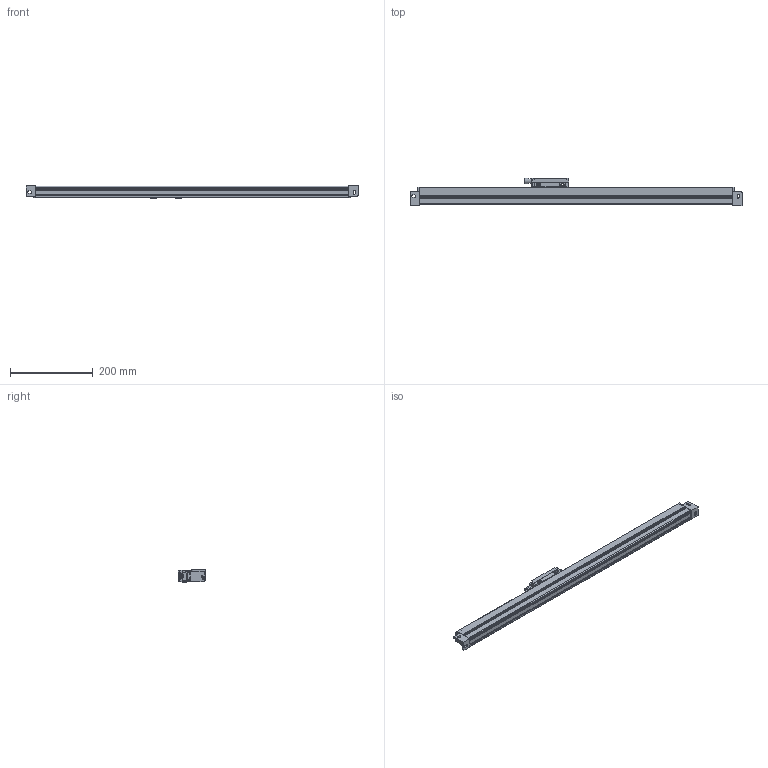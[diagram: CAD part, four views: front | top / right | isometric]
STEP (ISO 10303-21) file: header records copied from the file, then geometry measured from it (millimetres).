
FILE_DESCRIPTION (( 'STEP AP214' ), '1' );
FILE_NAME ('JCXE-L-0.5-0650.STEP', '2021-12-16T02:59:17', ( '微软用户' ), ( '微软中国' ), 'SwSTEP 2.0', 'SolidWorks 2010', '' );
FILE_SCHEMA (( 'AUTOMOTIVE_DESIGN' ));
Length unit declared in the file: millimetre
Products named in the file (7): MSBR-5_1-1; PRT0002; MSBR-4_1-1; MSBR-3_1-1; MSBR-2_1-1; 嫖掑喜旯L1200; JCXE-L-0.5-0650
Assembly tree (6 placements, depth 2):
  JCXE-L-0.5-0650
    嫖掑喜旯L1200
    MSBR-5_1-1
    PRT0002
    MSBR-4_1-1
    MSBR-2_1-1
    MSBR-3_1-1
Bounding box: 804 x 66.8 x 29.5 mm (x, y, z)
Volume: 393234.9 mm3; surface area: 260273.2 mm2
Topology: 6 solids, 6 shells, 547 faces, 1493 edges, 984 vertices
Faces by surface type: plane 331, cylinder 161, cone 27, bspline 25, sphere 3
Entity records: 18988 total; most frequent: CARTESIAN_POINT 4706, ORIENTED_EDGE 2978, DIRECTION 2838, EDGE_CURVE 1489, VECTOR 1018, LINE 1018, VERTEX_POINT 982, AXIS2_PLACEMENT_3D 910
